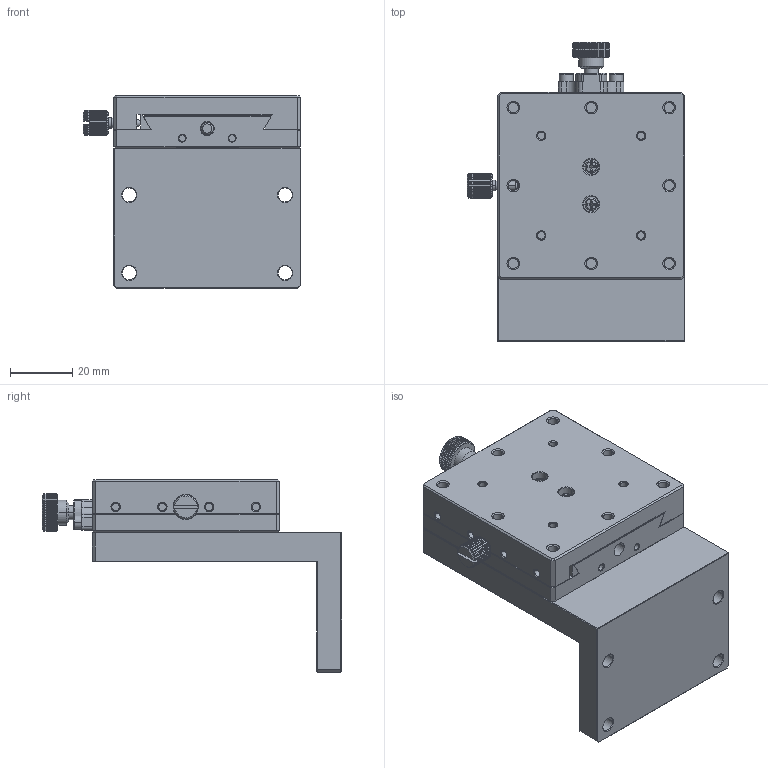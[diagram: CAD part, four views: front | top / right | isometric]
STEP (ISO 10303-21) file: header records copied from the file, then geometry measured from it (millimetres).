
FILE_DESCRIPTION((''),'2;1');
FILE_NAME('ASSY-60-Z-R_ASM','2021-06-29T15:10:42',('windows10'),(''),'CREO PARAMETRIC BY PTC INC, 2018260','CREO PARAMETRIC BY PTC INC, 2018260','');
FILE_SCHEMA(('CONFIG_CONTROL_DESIGN'));
Length unit declared in the file: millimetre
Products named in the file (14): BRACKET-L-60-80-TAP; BOTTOM-60-60-17; TOP-60-60-17; COUPLER-4060; SCREW-M2D5-4; HANDLE-12-M4-60; HOLDER-HANDLE; E-RING-3-7; ASSY-HANDLE-12-M4-60_ASM; 2D5-10; BALL-2D381; STOPPER-8-M3-16; ASSY-60-R_ASM; ASSY-60-Z-R_ASM
Assembly tree (15 placements, depth 4):
  ASSY-60-Z-R_ASM
    BRACKET-L-60-80-TAP
    ASSY-60-R_ASM
      BOTTOM-60-60-17
      TOP-60-60-17
      COUPLER-4060
      SCREW-M2D5-4  x2
      ASSY-HANDLE-12-M4-60_ASM
        HANDLE-12-M4-60
        HOLDER-HANDLE
        E-RING-3-7
      2D5-10  x2
      BALL-2D381
      STOPPER-8-M3-16
Bounding box: 69.74 x 96 x 61.9 mm (x, y, z)
Volume: 118241.3 mm3; surface area: 44182.2 mm2
Topology: 13 solids, 13 shells, 842 faces, 2136 edges, 1340 vertices
Faces by surface type: plane 418, cylinder 255, cone 151, torus 12, sphere 6
Entity records: 25022 total; most frequent: CARTESIAN_POINT 5387, ORIENTED_EDGE 4060, DIRECTION 4055, EDGE_CURVE 2030, AXIS2_PLACEMENT_3D 1514, VERTEX_POINT 1276, VECTOR 1027, LINE 1027
